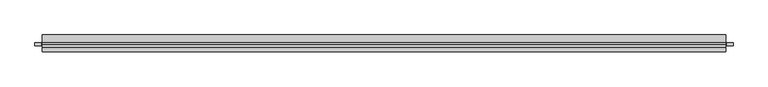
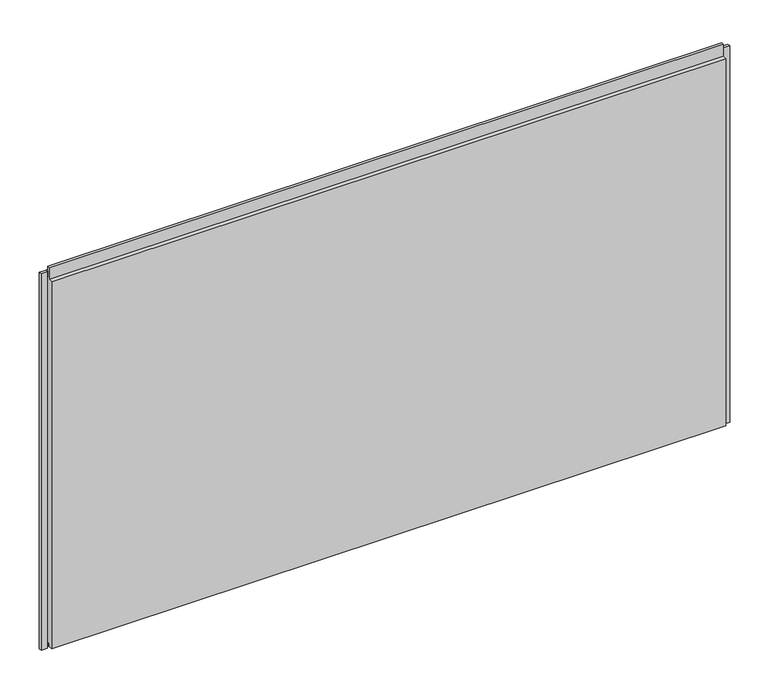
"""IFC4 building model written with IfcOpenShell, lengths in millimetres: plate geometry, Trimo_Qbiss Screen_Normal Panel-HORIZONTAL : HR - B."""

from ifc_helpers import new_model, si_unit, frame, origin, place, context, project, spatial, polyline, outline, extrude, source, transform, mapped, element, save


def plate_b0df7e0a(model_context):
    return source(origin(), model_context, "Body", "SweptSolid", [
        extrude(outline(polyline([(-963.0, 76.5978162), (-963.0, 67.8978162), (-982.0, 67.8978162), (-982.0, 76.5978162), (-963.0, 76.5978162)])), frame((0.0, 0.0, -1.0), z_axis=(0.0, 0.0, 1.0), x_axis=(1.0, 0.0, 0.0)), (0.0, 0.0, 1.0), 1200.0),
        extrude(outline(polyline([(1075.5, 67.8978162), (1075.5, 76.5978162), (1094.5, 76.5978162), (1094.5, 67.8978162), (1075.5, 67.8978162)])), frame((0.0, 0.0, -1.0), z_axis=(0.0, 0.0, 1.0), x_axis=(1.0, 0.0, 0.0)), (0.0, 0.0, 1.0), 1200.0),
        extrude(outline(polyline([(1072.5, 76.0), (1072.5, 71.0), (-960.0, 71.0), (-960.0, 76.0), (1072.5, 76.0)])), frame((0.0, 0.0, 1178.0), z_axis=(0.0, 0.0, 1.0), x_axis=(1.0, 0.0, 0.0)), (0.0, 0.0, 1.0), 21.0),
        extrude(outline(polyline([(71.0, 1177.0), (100.0, 1177.0), (100.0, 0.0), (72.0, 0.0), (72.0, 15.5), (62.0, 15.5), (62.0, 7.0), (50.0, 7.0), (50.0, 1177.0), (63.0, 1177.0), (63.0, 1214.5), (71.0, 1214.5), (71.0, 1177.0)])), frame((-960.0, 0.0, 0.0), z_axis=(1.0, 0.0, 0.0), x_axis=(0.0, 1.0, 0.0)), (0.0, 0.0, 1.0), 2032.5),
    ])


if __name__ == "__main__":
    model = new_model("IFC4")
    model_context = context("Model", 3, world=origin())
    ifc_project = project(units=[si_unit("LENGTHUNIT", "METRE", prefix="MILLI")], contexts=[model_context])
    site = spatial("IfcSite", under=ifc_project)
    building = spatial("IfcBuilding", under=site)
    placement = place(None, origin())
    plate_shape = plate_b0df7e0a(model_context)
    element("IfcPlate", 1, ObjectType="Trimo_Qbiss Screen_Normal Panel-HORIZONTAL : HR - B", at=placement, inside=building, context=model_context, shape_type="MappedRepresentation", body=[
        mapped(plate_shape, transform((0.0, 0.0, 0.0), x_axis=(1.0, 0.0, 0.0), y_axis=(0.0, 1.0, 0.0), z_axis=(0.0, 0.0, 1.0))),
    ])
    save(model, "model.ifc")
